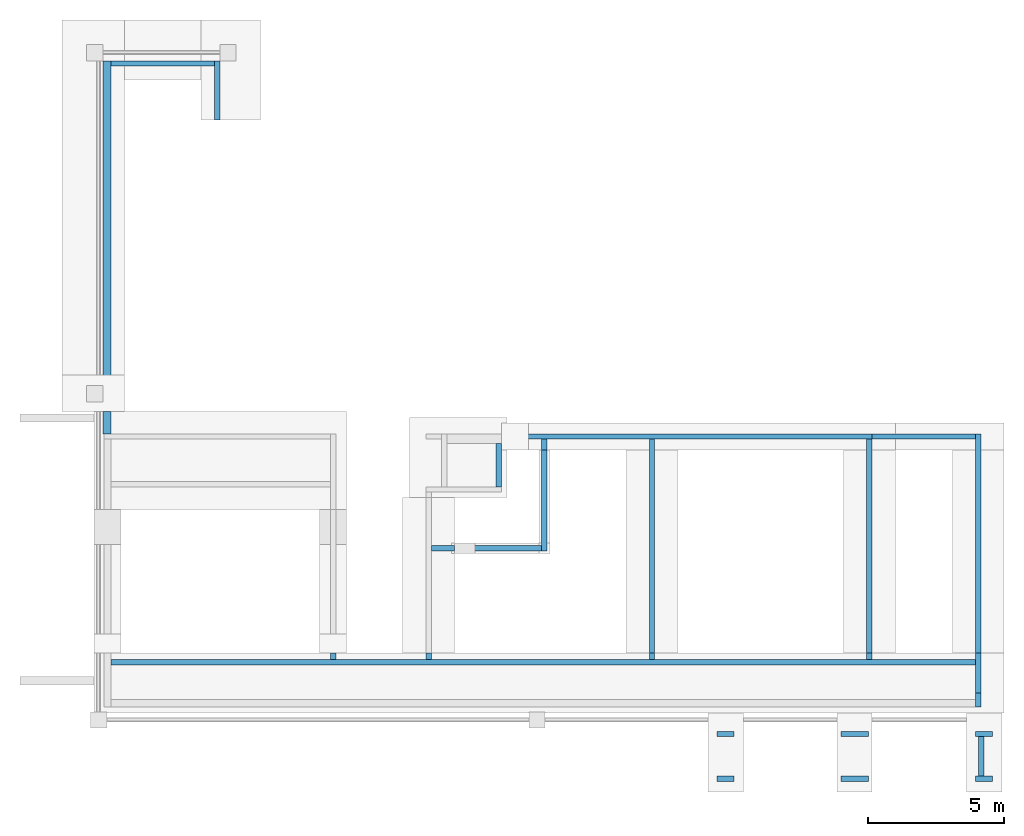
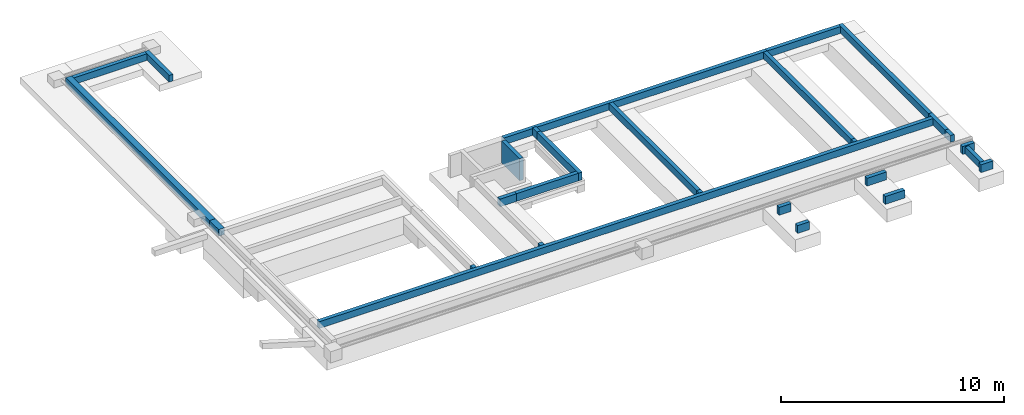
# One storey, part 2 of 4: 28 walls.
"""IFC2X3 building model written with IfcOpenShell, lengths in metres."""

import ifcopenshell
import ifcopenshell.guid

model = None  # the IFC model being written
_history = None  # IfcOwnerHistory: only IFC2X3 demands one
_inside = {}  # id of a spatial element -> (the spatial element, [elements in it])
_under = {}  # id of a project, library or spatial element -> (it, [spatial elements below it])
_declared = {}  # id of a project -> (the project, [libraries it declares])
_typed = {}  # id of a type object -> (the type object, [elements of that type])
_made_of = {}  # id of a material, layer set ... -> (it, [elements and type objects made of it])


def new_model(schema):
    """Start an empty IFC model of exactly this schema.

    Asked for "IFC4X3", IfcOpenShell would pick the latest addendum, in which some entities
    have other attributes; the version numbers below select the first issue.
    IFC2X3 requires an IfcOwnerHistory on every rooted entity: one is made here for all.
    """
    global model, _history
    if schema == "IFC4X3":
        model = ifcopenshell.file(schema_version=(4, 3, 0, 0))
    else:
        model = ifcopenshell.file(schema=schema)
    _inside.clear()
    _under.clear()
    _declared.clear()
    _typed.clear()
    _made_of.clear()
    _history = None
    if model.schema == "IFC2X3":
        org = make("IfcOrganization", Name="unknown")
        user = make(
            "IfcPersonAndOrganization",
            ThePerson=make("IfcPerson", FamilyName="unknown"),
            TheOrganization=org,
        )
        app = make(
            "IfcApplication",
            ApplicationDeveloper=org,
            Version="unknown",
            ApplicationFullName="unknown",
            ApplicationIdentifier="unknown",
        )
        _history = make(
            "IfcOwnerHistory",
            OwningUser=user,
            OwningApplication=app,
            ChangeAction="ADDED",
            CreationDate=0,
        )
    return model


def make(cls, **values):
    """One entity of the class cls with the attributes given. An attribute that is None is left unset."""
    return model.create_entity(
        cls, **{name: value for name, value in values.items() if value is not None}
    )


def entity(cls, *values):
    """Any entity or typed value of the class cls, its attributes in the order of the schema. None: left unset."""
    e = model.create_entity(cls)
    for i, value in enumerate(values):
        if value is not None:
            e[i] = value
    return e


def rooted(cls, **values):
    """An entity with a GlobalId (a new one), such as an element, a storey or a relation."""
    return make(cls, GlobalId=ifcopenshell.guid.new(), OwnerHistory=_history, **values)


def si_unit(unit_type, name, prefix=None):
    """IfcSIUnit, for example si_unit("LENGTHUNIT", "METRE", prefix="MILLI")."""
    return make("IfcSIUnit", UnitType=unit_type, Prefix=prefix, Name=name)


def converted_unit(unit_type, name, factor, base, dimensions=None, offset=None):
    """IfcConversionBasedUnit, such as the inch: factor (a typed value) times the base unit."""
    return make(
        "IfcConversionBasedUnit"
        if offset is None
        else "IfcConversionBasedUnitWithOffset",
        ConversionOffset=offset,
        Dimensions=None
        if dimensions is None
        else entity("IfcDimensionalExponents", *dimensions),
        UnitType=unit_type,
        Name=name,
        ConversionFactor=make(
            "IfcMeasureWithUnit", ValueComponent=factor, UnitComponent=base
        ),
    )


def derived_unit(unit_type, elements):
    """IfcDerivedUnit: a product of units, each with its exponent."""
    return make(
        "IfcDerivedUnit",
        Elements=[
            make("IfcDerivedUnitElement", Unit=unit, Exponent=power)
            for unit, power in elements
        ],
        UnitType=unit_type,
    )


def assignment(units):
    """IfcUnitAssignment: the units of a project."""
    return None if units is None else make("IfcUnitAssignment", Units=units)


def point(xyz):
    """IfcCartesianPoint."""
    return None if xyz is None else make("IfcCartesianPoint", Coordinates=xyz)


def direction(xyz):
    """IfcDirection."""
    return None if xyz is None else make("IfcDirection", DirectionRatios=xyz)


def frame(location, z_axis=None, x_axis=None):
    """IfcAxis2Placement3D, a coordinate frame: its origin and axes. An axis left out is left unset."""
    return make(
        "IfcAxis2Placement3D",
        Location=point(location),
        Axis=direction(z_axis),
        RefDirection=direction(x_axis),
    )


def frame_2d(location, x_axis=None):
    """IfcAxis2Placement2D, a coordinate frame in the plane: its origin and x axis."""
    return make(
        "IfcAxis2Placement2D", Location=point(location), RefDirection=direction(x_axis)
    )


def origin():
    """The frame at (0, 0, 0) with its axes left unset."""
    return frame((0.0, 0.0, 0.0))


def place(relative_to, where):
    """IfcLocalPlacement: puts the frame where relative to a parent placement (None: the world)."""
    return make(
        "IfcLocalPlacement", PlacementRelTo=relative_to, RelativePlacement=where
    )


def context(
    kind, dimensions, precision=None, world=None, true_north=None, identifier=None
):
    """IfcGeometricRepresentationContext, for example the 3D "Model" context."""
    return make(
        "IfcGeometricRepresentationContext",
        ContextIdentifier=identifier,
        ContextType=kind,
        CoordinateSpaceDimension=dimensions,
        Precision=precision,
        WorldCoordinateSystem=world,
        TrueNorth=true_north,
    )


def subcontext(parent, identifier, kind, view, scale=None):
    """IfcGeometricRepresentationSubContext, for example "Body" below "Model"."""
    return make(
        "IfcGeometricRepresentationSubContext",
        ContextIdentifier=identifier,
        ContextType=kind,
        ParentContext=parent,
        TargetScale=scale,
        TargetView=view,
    )


def project(units=None, contexts=None):
    """IfcProject with its units and contexts."""
    return rooted(
        "IfcProject",
        Name="project",
        RepresentationContexts=contexts,
        UnitsInContext=assignment(units),
    )


def spatial(cls, under=None, at=None, **own):
    """A site, building, storey or space (cls), placed at a placement, below another one or the project."""
    s = rooted(cls, ObjectPlacement=at, **own)
    if under is not None:
        _under.setdefault(under.id(), (under, []))[1].append(s)
    return s


def profile(cls, at=None, kind="AREA", **sizes):
    """A parametric profile (cls). Its sizes go by their IFC names, for example OverallWidth=200.0."""
    return make(cls, ProfileType=kind, Position=at, **sizes)


def rectangle(**sizes):
    """IfcRectangleProfileDef."""
    return profile("IfcRectangleProfileDef", **sizes)


def extrude(swept, where, along, depth):
    """IfcExtrudedAreaSolid: the profile swept, set in the frame where, extruded along a direction by depth."""
    return make(
        "IfcExtrudedAreaSolid",
        SweptArea=swept,
        Position=where,
        ExtrudedDirection=direction(along),
        Depth=depth,
    )


def shape(context_of_items, identifier, shape_type, items):
    """IfcShapeRepresentation: the items that make up one representation, for example the "Body"."""
    return make(
        "IfcShapeRepresentation",
        ContextOfItems=context_of_items,
        RepresentationIdentifier=identifier,
        RepresentationType=shape_type,
        Items=items,
    )


def material(Name=None, Category=None):
    """IfcMaterial."""
    return make("IfcMaterial", Name=Name, Category=Category)


def layer(
    of_material, thickness, ventilated=None, Name=None, Category=None, Priority=None
):
    """IfcMaterialLayer: one layer of a wall or slab, of a material (None: an air gap)."""
    return make(
        "IfcMaterialLayer",
        Material=of_material,
        LayerThickness=thickness,
        IsVentilated=ventilated,
        Name=Name,
        Category=Category,
        Priority=Priority,
    )


def layer_set(layers, Name=None):
    """IfcMaterialLayerSet."""
    return make("IfcMaterialLayerSet", MaterialLayers=layers, LayerSetName=Name)


def layer_usage(for_layer_set, set_direction, sense, offset, extent=None):
    """IfcMaterialLayerSetUsage: how a layer set lies in its element."""
    return make(
        "IfcMaterialLayerSetUsage",
        ForLayerSet=for_layer_set,
        LayerSetDirection=set_direction,
        DirectionSense=sense,
        OffsetFromReferenceLine=offset,
        ReferenceExtent=extent,
    )


def made_of(thing, what):
    """Note that an element or type object is made of a material, layer set ...; save() writes the relation."""
    if what is not None:
        _made_of.setdefault(what.id(), (what, []))[1].append(thing)
    return thing


def type_object(cls, material=None, **own):
    """A type object (cls), such as IfcWallType, which elements share."""
    return made_of(rooted(cls, **own), material)


def element(
    cls,
    number,
    at=None,
    inside=None,
    cuts=None,
    type_object=None,
    material=None,
    context=None,
    identifier="Body",
    shape_type=None,
    held_by="IfcProductDefinitionShape",
    body=None,
    shapes=None,
    **own,
):
    """One element of the class cls, such as IfcWall. Its Tag is "e" and its number.

    at: its placement. inside: the storey or other place that contains it. cuts: it is an
    opening in that element (IfcRelVoidsElement). A single representation is given by context,
    identifier, shape_type and body (its items); several are given by shapes. held_by: the class
    of the entity that holds the representations. save() writes the other relations.
    """
    e = rooted(cls, Tag="e%d" % number, ObjectPlacement=at, **own)
    if body is not None:
        shapes = [shape(context, identifier, shape_type, body)]
    if shapes is not None:
        e.Representation = make(held_by, Representations=shapes)
    if inside is not None:
        _inside.setdefault(inside.id(), (inside, []))[1].append(e)
    if cuts is not None:
        rooted(
            "IfcRelVoidsElement", RelatingBuildingElement=cuts, RelatedOpeningElement=e
        )
    if type_object is not None:
        _typed.setdefault(type_object.id(), (type_object, []))[1].append(e)
    return made_of(e, material)


def aggregate(whole, parts):
    """IfcRelAggregates: a whole, such as a stair, and the parts it consists of."""
    return rooted("IfcRelAggregates", RelatingObject=whole, RelatedObjects=parts)


def save(model, path):
    """Write the relations noted so far, then the file.

    IfcRelAggregates (storeys below a building ...), IfcRelContainedInSpatialStructure (elements
    in a storey), IfcRelDefinesByType, IfcRelAssociatesMaterial and IfcRelDeclares: one each for
    every whole, place, type object, material and project.
    """
    for whole, parts in _under.values():
        aggregate(whole, parts)
    for where, things in _inside.values():
        rooted(
            "IfcRelContainedInSpatialStructure",
            RelatedElements=things,
            RelatingStructure=where,
        )
    for kind, things in _typed.values():
        rooted("IfcRelDefinesByType", RelatedObjects=things, RelatingType=kind)
    for what, things in _made_of.values():
        rooted("IfcRelAssociatesMaterial", RelatedObjects=things, RelatingMaterial=what)
    for by, libraries in _declared.values():
        rooted("IfcRelDeclares", RelatingContext=by, RelatedDefinitions=libraries)
    model.write(path)


model = new_model("IFC2X3")

# Units and contexts
model_context = context("Model", 3, precision=1e-05, world=origin(), true_north=direction((6.12303176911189e-17, 1.0)))
body_context = subcontext(model_context, "Body", "Model", "MODEL_VIEW")
ifc_project = project(units=[si_unit("LENGTHUNIT", "METRE"), si_unit("AREAUNIT", "SQUARE_METRE"), si_unit("VOLUMEUNIT", "CUBIC_METRE"), converted_unit("PLANEANGLEUNIT", "DEGREE", entity("IfcRatioMeasure", 0.0174532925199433), si_unit("PLANEANGLEUNIT", "RADIAN"), dimensions=[0, 0, 0, 0, 0, 0, 0]), si_unit("MASSUNIT", "GRAM", prefix="KILO"), derived_unit("MASSDENSITYUNIT", [(si_unit("MASSUNIT", "GRAM", prefix="KILO"), 1), (si_unit("LENGTHUNIT", "METRE"), -3)]), si_unit("TIMEUNIT", "SECOND"), si_unit("FREQUENCYUNIT", "HERTZ"), si_unit("THERMODYNAMICTEMPERATUREUNIT", "DEGREE_CELSIUS"), derived_unit("THERMALTRANSMITTANCEUNIT", [(si_unit("MASSUNIT", "GRAM", prefix="KILO"), 1), (si_unit("THERMODYNAMICTEMPERATUREUNIT", "KELVIN"), -1), (si_unit("TIMEUNIT", "SECOND"), -3)]), derived_unit("VOLUMETRICFLOWRATEUNIT", [(si_unit("LENGTHUNIT", "METRE"), 3), (si_unit("TIMEUNIT", "SECOND"), -1)]), si_unit("ELECTRICCURRENTUNIT", "AMPERE"), si_unit("ELECTRICVOLTAGEUNIT", "VOLT"), si_unit("POWERUNIT", "WATT"), si_unit("FORCEUNIT", "NEWTON"), si_unit("ILLUMINANCEUNIT", "LUX"), si_unit("LUMINOUSFLUXUNIT", "LUMEN"), si_unit("LUMINOUSINTENSITYUNIT", "CANDELA"), derived_unit("USERDEFINED", [(si_unit("MASSUNIT", "GRAM", prefix="KILO"), -1), (si_unit("LENGTHUNIT", "METRE"), -2), (si_unit("TIMEUNIT", "SECOND"), 3), (si_unit("LUMINOUSFLUXUNIT", "LUMEN"), 1)]), derived_unit("LINEARVELOCITYUNIT", [(si_unit("LENGTHUNIT", "METRE"), 1), (si_unit("TIMEUNIT", "SECOND"), -1)]), si_unit("PRESSUREUNIT", "PASCAL"), derived_unit("USERDEFINED", [(si_unit("LENGTHUNIT", "METRE"), -2), (si_unit("MASSUNIT", "GRAM", prefix="KILO"), 1), (si_unit("TIMEUNIT", "SECOND"), -2)])], contexts=[model_context])

# Site, building, storey
site_placement = place(None, origin())
site = spatial("IfcSite", under=ifc_project, at=site_placement, Name="Default", CompositionType="ELEMENT")
building_placement = place(site_placement, origin())
building = spatial("IfcBuilding", under=site, at=building_placement, CompositionType="ELEMENT")
storey_placement = place(building_placement, frame((0.0, 0.0, -5.05)))
storey = spatial("IfcBuildingStorey", under=building, at=storey_placement, Name="S02", CompositionType="ELEMENT", Elevation=-5.05)

# Walls
ifc_material = material(Name="Mur par défaut")
ifc_layer_1 = layer(ifc_material, 0.2)
ifc_layer_set_1 = layer_set([ifc_layer_1], Name="Basic Wall:Mur BA - 20cm")
ifc_layer_usage_1 = layer_usage(ifc_layer_set_1, "AXIS2", "NEGATIVE", 0.1)
wall_type_1 = type_object("IfcWallType", Name="Basic Wall:Mur BA - 20cm", PredefinedType="STANDARD", material=ifc_layer_set_1)
wall_1_placement = place(storey_placement, frame((47.8497436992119, -186.906488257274, -0.84), z_axis=(0.0, 0.0, 1.0), x_axis=(0.0, 1.0, 0.0)))
element("IfcWallStandardCase", 1, at=wall_1_placement, inside=storey, type_object=wall_type_1, material=ifc_layer_usage_1, Name="Basic Wall:Mur BA - 20cm", ObjectType="Basic Wall:Mur BA - 20cm", context=body_context, shape_type="SweptSolid", body=[
    extrude(rectangle(XDim=1.59999999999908, YDim=0.200000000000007, at=frame_2d((0.799999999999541, 0.0), x_axis=(-1.0, 0.0))), origin(), (0.0, 0.0, 1.0), 1.21),
])
ifc_layer_usage_2 = layer_usage(ifc_layer_set_1, "AXIS2", "NEGATIVE", 0.1)
wall_2_placement = place(storey_placement, frame((65.3897436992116, -185.056488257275, 0.0), z_axis=(0.0, 0.0, 1.0), x_axis=(-1.0, 0.0, 0.0)))
element("IfcWallStandardCase", 2, at=wall_2_placement, inside=storey, type_object=wall_type_1, material=ifc_layer_usage_2, Name="Basic Wall:Mur BA - 20cm", ObjectType="Basic Wall:Mur BA - 20cm", context=body_context, shape_type="SweptSolid", body=[
    extrude(rectangle(XDim=3.79999999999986, YDim=0.200000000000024, at=frame_2d((1.89999999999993, 6.57113252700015e-15), x_axis=(-1.0, 0.0))), origin(), (0.0, 0.0, 1.0), 0.37),
])
ifc_layer_usage_3 = layer_usage(ifc_layer_set_1, "AXIS2", "NEGATIVE", 0.1)
wall_3_placement = place(storey_placement, frame((41.7597436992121, -193.259651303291, 0.0), z_axis=(0.0, 0.0, 1.0), x_axis=(0.0, 1.0, 0.0)))
element("IfcWallStandardCase", 3, at=wall_3_placement, inside=storey, type_object=wall_type_1, material=ifc_layer_usage_3, Name="Basic Wall:Mur BA - 20cm", ObjectType="Basic Wall:Mur BA - 20cm", context=body_context, shape_type="SweptSolid", body=[
    extrude(rectangle(XDim=0.230000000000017, YDim=0.200000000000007, at=frame_2d((0.115000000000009, 2.4980018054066e-16), x_axis=(-1.0, 0.0))), origin(), (0.0, 0.0, 1.0), 0.37),
])
ifc_layer_usage_4 = layer_usage(ifc_layer_set_1, "AXIS2", "NEGATIVE", 0.1)
wall_4_placement = place(storey_placement, frame((61.4897436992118, -193.259651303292, 0.0), z_axis=(0.0, 0.0, 1.0), x_axis=(0.0, 1.0, 0.0)))
element("IfcWallStandardCase", 4, at=wall_4_placement, inside=storey, type_object=wall_type_1, material=ifc_layer_usage_4, Name="Basic Wall:Mur BA - 20cm", ObjectType="Basic Wall:Mur BA - 20cm", context=body_context, shape_type="SweptSolid", body=[
    extrude(rectangle(XDim=0.230000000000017, YDim=0.200000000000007, at=frame_2d((0.115000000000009, 2.4980018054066e-16), x_axis=(-1.0, 0.0))), origin(), (0.0, 0.0, 1.0), 0.37),
])
ifc_layer_usage_5 = layer_usage(ifc_layer_set_1, "AXIS2", "NEGATIVE", 0.1)
wall_5_placement = place(storey_placement, frame((53.4897436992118, -193.259651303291, 0.0), z_axis=(0.0, 0.0, 1.0), x_axis=(0.0, 1.0, 0.0)))
element("IfcWallStandardCase", 5, at=wall_5_placement, inside=storey, type_object=wall_type_1, material=ifc_layer_usage_5, Name="Basic Wall:Mur BA - 20cm", ObjectType="Basic Wall:Mur BA - 20cm", context=body_context, shape_type="SweptSolid", body=[
    extrude(rectangle(XDim=0.230000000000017, YDim=0.200000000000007, at=frame_2d((0.115000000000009, 2.4980018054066e-16), x_axis=(-1.0, 0.0))), origin(), (0.0, 0.0, 1.0), 0.37),
])
ifc_layer_usage_6 = layer_usage(ifc_layer_set_1, "AXIS2", "NEGATIVE", 0.1)
wall_6_placement = place(storey_placement, frame((65.3897436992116, -193.359651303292, 0.0), z_axis=(0.0, 0.0, 1.0), x_axis=(-1.0, 0.0, 0.0)))
element("IfcWallStandardCase", 6, at=wall_6_placement, inside=storey, type_object=wall_type_1, material=ifc_layer_usage_6, Name="Basic Wall:Mur BA - 20cm", ObjectType="Basic Wall:Mur BA - 20cm", context=body_context, shape_type="SweptSolid", body=[
    extrude(rectangle(XDim=31.7999999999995, YDim=0.200000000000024, at=frame_2d((15.8999999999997, 0.0), x_axis=(-1.0, 0.0))), origin(), (0.0, 0.0, 1.0), 0.37),
])
ifc_layer_usage_7 = layer_usage(ifc_layer_set_1, "AXIS2", "NEGATIVE", 0.1)
wall_7_placement = place(storey_placement, frame((61.5897436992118, -185.056488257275, 0.0), z_axis=(0.0, 0.0, 1.0), x_axis=(-1.0, 0.0, 0.0)))
element("IfcWallStandardCase", 7, at=wall_7_placement, inside=storey, type_object=wall_type_1, material=ifc_layer_usage_7, Name="Basic Wall:Mur BA - 20cm", ObjectType="Basic Wall:Mur BA - 20cm", context=body_context, shape_type="SweptSolid", body=[
    extrude(rectangle(XDim=13.6399999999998, YDim=0.200000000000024, at=frame_2d((6.81999999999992, -1.10952913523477e-14), x_axis=(-1.0, 0.0))), origin(), (0.0, 0.0, 1.0), 0.37),
])
ifc_layer_usage_8 = layer_usage(ifc_layer_set_1, "AXIS2", "POSITIVE", -0.1)
wall_8_placement = place(storey_placement, frame((49.5297436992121, -185.156488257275, 0.0), z_axis=(0.0, 0.0, 1.0), x_axis=(0.0, -1.0, 0.0)))
element("IfcWallStandardCase", 8, at=wall_8_placement, inside=storey, type_object=wall_type_1, material=ifc_layer_usage_8, Name="Basic Wall:Mur BA - 20cm", ObjectType="Basic Wall:Mur BA - 20cm", context=body_context, shape_type="SweptSolid", body=[
    extrude(rectangle(XDim=0.400000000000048, YDim=0.200000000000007, at=frame_2d((0.200000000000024, 4.44089209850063e-16), x_axis=(-1.0, 0.0))), origin(), (0.0, 0.0, 1.0), 0.42),
])
ifc_layer_usage_9 = layer_usage(ifc_layer_set_1, "AXIS2", "POSITIVE", -0.1)
wall_9_placement = place(storey_placement, frame((49.4297436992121, -189.168069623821, 0.0), z_axis=(0.0, 0.0, 1.0), x_axis=(-1.0, 0.0, 0.0)))
element("IfcWallStandardCase", 9, at=wall_9_placement, inside=storey, type_object=wall_type_1, material=ifc_layer_usage_9, Name="Basic Wall:Mur BA - 20cm", ObjectType="Basic Wall:Mur BA - 20cm", context=body_context, shape_type="SweptSolid", body=[
    extrude(rectangle(XDim=3.2100000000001, YDim=0.200000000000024, at=frame_2d((1.60500000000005, 0.0), x_axis=(-1.0, 0.0))), origin(), (0.0, 0.0, 1.0), 0.42),
])
ifc_layer_usage_10 = layer_usage(ifc_layer_set_1, "AXIS2", "NEGATIVE", 0.1)
wall_10_placement = place(storey_placement, frame((66.0097436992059, -196.001320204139, 0.0), z_axis=(0.0, 0.0, 1.0), x_axis=(-1.0, 0.0, 0.0)))
element("IfcWallStandardCase", 10, at=wall_10_placement, inside=storey, type_object=wall_type_1, material=ifc_layer_usage_10, Name="Basic Wall:Mur BA - 20cm", ObjectType="Basic Wall:Mur BA - 20cm", context=body_context, shape_type="SweptSolid", body=[
    extrude(rectangle(XDim=0.619999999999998, YDim=0.200000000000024, at=frame_2d((0.309999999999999, 1.08940634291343e-15), x_axis=(-1.0, 0.0))), origin(), (0.0, 0.0, 1.0), 0.43),
])
ifc_layer_usage_11 = layer_usage(ifc_layer_set_1, "AXIS2", "NEGATIVE", 0.1)
wall_11_placement = place(storey_placement, frame((56.5099742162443, -197.646420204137, 0.0), z_axis=(0.0, 0.0, 1.0), x_axis=(-1.0, 0.0, 0.0)))
element("IfcWallStandardCase", 11, at=wall_11_placement, inside=storey, type_object=wall_type_1, material=ifc_layer_usage_11, Name="Basic Wall:Mur BA - 20cm", ObjectType="Basic Wall:Mur BA - 20cm", context=body_context, shape_type="SweptSolid", body=[
    extrude(rectangle(XDim=0.621176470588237, YDim=0.200000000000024, at=frame_2d((0.310588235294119, 1.08940634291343e-15), x_axis=(-1.0, 0.0))), origin(), (0.0, 0.0, 1.0), 0.43),
])
ifc_layer_usage_12 = layer_usage(ifc_layer_set_1, "AXIS2", "NEGATIVE", 0.1)
wall_12_placement = place(storey_placement, frame((65.4897436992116, -194.501320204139, 0.0), z_axis=(0.0, 0.0, 1.0), x_axis=(0.0, 1.0, 0.0)))
element("IfcWallStandardCase", 12, at=wall_12_placement, inside=storey, type_object=wall_type_1, material=ifc_layer_usage_12, Name="Basic Wall:Mur BA - 20cm", ObjectType="Basic Wall:Mur BA - 20cm", context=body_context, shape_type="SweptSolid", body=[
    extrude(rectangle(XDim=1.47166890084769, YDim=0.200000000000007, at=frame_2d((0.735834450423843, 1.31145094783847e-15), x_axis=(-1.0, 0.0))), origin(), (0.0, 0.0, 1.0), 0.37),
])
ifc_layer_usage_13 = layer_usage(ifc_layer_set_1, "AXIS2", "NEGATIVE", 0.1)
wall_13_placement = place(storey_placement, frame((65.4897436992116, -195.001320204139, 0.0), z_axis=(0.0, 0.0, 1.0), x_axis=(0.0, 1.0, 0.0)))
element("IfcWallStandardCase", 13, at=wall_13_placement, inside=storey, type_object=wall_type_1, material=ifc_layer_usage_13, Name="Basic Wall:Mur BA - 20cm", ObjectType="Basic Wall:Mur BA - 20cm", context=body_context, shape_type="SweptSolid", body=[
    extrude(rectangle(XDim=0.50000000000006, YDim=0.200000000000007, at=frame_2d((0.25000000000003, 4.5102810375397e-16), x_axis=(-1.0, 0.0))), origin(), (0.0, 0.0, 1.0), 0.37),
])
ifc_layer_usage_14 = layer_usage(ifc_layer_set_1, "AXIS2", "NEGATIVE", 0.1)
wall_14_placement = place(storey_placement, frame((45.2697436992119, -193.029651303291, 0.0), z_axis=(0.0, 0.0, 1.0), x_axis=(0.0, -1.0, 0.0)))
element("IfcWallStandardCase", 14, at=wall_14_placement, inside=storey, type_object=wall_type_1, material=ifc_layer_usage_14, Name="Basic Wall:Mur BA - 20cm", ObjectType="Basic Wall:Mur BA - 20cm", context=body_context, shape_type="SweptSolid", body=[
    extrude(rectangle(XDim=0.230000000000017, YDim=0.200000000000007, at=frame_2d((0.115000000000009, 2.4980018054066e-16), x_axis=(-1.0, 0.0))), origin(), (0.0, 0.0, 1.0), 0.37),
])
ifc_layer_usage_15 = layer_usage(ifc_layer_set_1, "AXIS2", "NEGATIVE", 0.1)
wall_15_placement = place(storey_placement, frame((56.5099742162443, -196.001320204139, 0.0), z_axis=(0.0, 0.0, 1.0), x_axis=(-1.0, 0.0, 0.0)))
element("IfcWallStandardCase", 15, at=wall_15_placement, inside=storey, type_object=wall_type_1, material=ifc_layer_usage_15, Name="Basic Wall:Mur BA - 20cm", ObjectType="Basic Wall:Mur BA - 20cm", context=body_context, shape_type="SweptSolid", body=[
    extrude(rectangle(XDim=0.621176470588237, YDim=0.200000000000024, at=frame_2d((0.310588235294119, 1.08940634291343e-15), x_axis=(-1.0, 0.0))), origin(), (0.0, 0.0, 1.0), 0.43),
])
ifc_layer_usage_16 = layer_usage(ifc_layer_set_1, "AXIS2", "NEGATIVE", 0.1)
wall_16_placement = place(storey_placement, frame((61.4499742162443, -196.001320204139, 0.0), z_axis=(0.0, 0.0, 1.0), x_axis=(-1.0, 0.0, 0.0)))
element("IfcWallStandardCase", 16, at=wall_16_placement, inside=storey, type_object=wall_type_1, material=ifc_layer_usage_16, Name="Basic Wall:Mur BA - 20cm", ObjectType="Basic Wall:Mur BA - 20cm", context=body_context, shape_type="SweptSolid", body=[
    extrude(rectangle(XDim=1.01523021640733, YDim=0.200000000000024, at=frame_2d((0.507615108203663, 0.0), x_axis=(-1.0, 0.0))), origin(), (0.0, 0.0, 1.0), 0.43),
])
ifc_layer_usage_17 = layer_usage(ifc_layer_set_1, "AXIS2", "NEGATIVE", 0.1)
wall_17_placement = place(storey_placement, frame((66.0097436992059, -197.646420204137, 0.0), z_axis=(0.0, 0.0, 1.0), x_axis=(-1.0, 0.0, 0.0)))
element("IfcWallStandardCase", 17, at=wall_17_placement, inside=storey, type_object=wall_type_1, material=ifc_layer_usage_17, Name="Basic Wall:Mur BA - 20cm", ObjectType="Basic Wall:Mur BA - 20cm", context=body_context, shape_type="SweptSolid", body=[
    extrude(rectangle(XDim=0.619999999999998, YDim=0.200000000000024, at=frame_2d((0.309999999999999, 1.08940634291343e-15), x_axis=(-1.0, 0.0))), origin(), (0.0, 0.0, 1.0), 0.43),
])
ifc_layer_usage_18 = layer_usage(ifc_layer_set_1, "AXIS2", "NEGATIVE", 0.1)
wall_18_placement = place(storey_placement, frame((61.4499742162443, -197.646420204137, 0.0), z_axis=(0.0, 0.0, 1.0), x_axis=(-1.0, 0.0, 0.0)))
element("IfcWallStandardCase", 18, at=wall_18_placement, inside=storey, type_object=wall_type_1, material=ifc_layer_usage_18, Name="Basic Wall:Mur BA - 20cm", ObjectType="Basic Wall:Mur BA - 20cm", context=body_context, shape_type="SweptSolid", body=[
    extrude(rectangle(XDim=1.01523021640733, YDim=0.200000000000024, at=frame_2d((0.507615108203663, 0.0), x_axis=(-1.0, 0.0))), origin(), (0.0, 0.0, 1.0), 0.43),
])
ifc_layer_usage_19 = layer_usage(ifc_layer_set_1, "AXIS2", "NEGATIVE", 0.1)
wall_19_placement = place(storey_placement, frame((65.4897436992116, -193.029651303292, 0.0), z_axis=(0.0, 0.0, 1.0), x_axis=(0.0, 1.0, 0.0)))
element("IfcWallStandardCase", 19, at=wall_19_placement, inside=storey, type_object=wall_type_1, material=ifc_layer_usage_19, Name="Basic Wall:Mur BA - 20cm", ObjectType="Basic Wall:Mur BA - 20cm", context=body_context, shape_type="SweptSolid", body=[
    extrude(rectangle(XDim=8.07316304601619, YDim=0.200000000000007, at=frame_2d((4.0365815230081, -1.48492329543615e-15), x_axis=(-1.0, 0.0))), origin(), (0.0, 0.0, 1.0), 0.37),
])
ifc_layer_usage_20 = layer_usage(ifc_layer_set_1, "AXIS2", "NEGATIVE", 0.1)
wall_20_placement = place(storey_placement, frame((61.4897436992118, -193.029651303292, 0.0), z_axis=(0.0, 0.0, 1.0), x_axis=(0.0, 1.0, 0.0)))
element("IfcWallStandardCase", 20, at=wall_20_placement, inside=storey, type_object=wall_type_1, material=ifc_layer_usage_20, Name="Basic Wall:Mur BA - 20cm", ObjectType="Basic Wall:Mur BA - 20cm", context=body_context, shape_type="SweptSolid", body=[
    extrude(rectangle(XDim=7.8731630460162, YDim=0.200000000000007, at=frame_2d((3.9365815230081, -2.42861286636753e-16), x_axis=(-1.0, 0.0))), origin(), (0.0, 0.0, 1.0), 0.37),
])
ifc_layer_usage_21 = layer_usage(ifc_layer_set_1, "AXIS2", "NEGATIVE", 0.1)
wall_21_placement = place(storey_placement, frame((53.4897436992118, -193.029651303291, 0.0), z_axis=(0.0, 0.0, 1.0), x_axis=(0.0, 1.0, 0.0)))
element("IfcWallStandardCase", 21, at=wall_21_placement, inside=storey, type_object=wall_type_1, material=ifc_layer_usage_21, Name="Basic Wall:Mur BA - 20cm", ObjectType="Basic Wall:Mur BA - 20cm", context=body_context, shape_type="SweptSolid", body=[
    extrude(rectangle(XDim=7.8731630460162, YDim=0.200000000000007, at=frame_2d((3.9365815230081, -2.42861286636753e-16), x_axis=(-1.0, 0.0))), origin(), (0.0, 0.0, 1.0), 0.37),
])
ifc_layer_usage_22 = layer_usage(ifc_layer_set_1, "AXIS2", "POSITIVE", -0.1)
wall_22_placement = place(storey_placement, frame((49.5297436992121, -185.556488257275, 0.0), z_axis=(0.0, 0.0, 1.0), x_axis=(0.0, -1.0, 0.0)))
element("IfcWallStandardCase", 22, at=wall_22_placement, inside=storey, type_object=wall_type_1, material=ifc_layer_usage_22, Name="Basic Wall:Mur BA - 20cm", ObjectType="Basic Wall:Mur BA - 20cm", context=body_context, shape_type="SweptSolid", body=[
    extrude(rectangle(XDim=3.71158136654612, YDim=0.200000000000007, at=frame_2d((1.85579068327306, -2.42861286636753e-16), x_axis=(-1.0, 0.0))), origin(), (0.0, 0.0, 1.0), 0.42),
])
ifc_layer_usage_23 = layer_usage(ifc_layer_set_1, "AXIS2", "POSITIVE", -0.1)
wall_23_placement = place(storey_placement, frame((46.2197436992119, -189.168069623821, 0.0), z_axis=(0.0, 0.0, 1.0), x_axis=(-1.0, 0.0, 0.0)))
element("IfcWallStandardCase", 23, at=wall_23_placement, inside=storey, type_object=wall_type_1, material=ifc_layer_usage_23, Name="Basic Wall:Mur BA - 20cm", ObjectType="Basic Wall:Mur BA - 20cm", context=body_context, shape_type="SweptSolid", body=[
    extrude(rectangle(XDim=0.849999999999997, YDim=0.200000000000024, at=frame_2d((0.424999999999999, 0.0), x_axis=(-1.0, 0.0))), origin(), (0.0, 0.0, 1.0), 0.42),
])
ifc_layer_usage_24 = layer_usage(ifc_layer_set_1, "AXIS2", "NEGATIVE", 0.1)
wall_24_placement = place(storey_placement, frame((65.6097436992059, -197.546420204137, 0.0), z_axis=(0.0, 0.0, 1.0), x_axis=(0.0, 1.0, 0.0)))
element("IfcWallStandardCase", 24, at=wall_24_placement, inside=storey, type_object=wall_type_1, material=ifc_layer_usage_24, Name="Basic Wall:Mur BA - 20cm", ObjectType="Basic Wall:Mur BA - 20cm", context=body_context, shape_type="SweptSolid", body=[
    extrude(rectangle(XDim=1.44509999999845, YDim=0.200000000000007, at=frame_2d((0.722549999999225, 1.17961196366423e-16), x_axis=(-1.0, 0.0))), origin(), (0.0, 0.0, 1.0), 0.38),
])
ifc_layer_2 = layer(ifc_material, 0.3)
ifc_layer_set_2 = layer_set([ifc_layer_2], Name="Basic Wall:Mur BA Contre terre - 30cm")
ifc_layer_usage_25 = layer_usage(ifc_layer_set_2, "AXIS2", "NEGATIVE", 0.15)
wall_type_2 = type_object("IfcWallType", Name="Basic Wall:Mur BA Contre terre - 30cm", PredefinedType="STANDARD", material=ifc_layer_set_2)
wall_25_placement = place(storey_placement, frame((33.4397436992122, -171.23478277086, 0.0), z_axis=(0.0, 0.0, 1.0), x_axis=(0.0, -1.0, 0.0)))
element("IfcWallStandardCase", 25, at=wall_25_placement, inside=storey, type_object=wall_type_2, material=ifc_layer_usage_25, Name="Basic Wall:Mur BA Contre terre - 30cm", ObjectType="Basic Wall:Mur BA Contre terre - 30cm", context=body_context, shape_type="SweptSolid", body=[
    extrude(rectangle(XDim=12.901705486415, YDim=0.300000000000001, at=frame_2d((6.45085274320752, -6.38378239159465e-16), x_axis=(-1.0, 0.0))), origin(), (0.0, 0.0, 1.0), 0.37),
])
ifc_layer_usage_26 = layer_usage(ifc_layer_set_2, "AXIS2", "NEGATIVE", 0.15)
wall_26_placement = place(storey_placement, frame((33.4397436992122, -184.136488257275, 0.0), z_axis=(0.0, 0.0, 1.0), x_axis=(0.0, -1.0, 0.0)))
element("IfcWallStandardCase", 26, at=wall_26_placement, inside=storey, type_object=wall_type_2, material=ifc_layer_usage_26, Name="Basic Wall:Mur BA Contre terre - 30cm", ObjectType="Basic Wall:Mur BA Contre terre - 30cm", context=body_context, shape_type="SweptSolid", body=[
    extrude(rectangle(XDim=0.820000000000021, YDim=0.300000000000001, at=frame_2d((0.410000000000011, 6.38378239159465e-16), x_axis=(-1.0, 0.0))), origin(), (0.0, 0.0, 1.0), 0.37),
])
ifc_layer_3 = layer(ifc_material, 0.2)
ifc_layer_set_3 = layer_set([ifc_layer_3], Name="Basic Wall:Mur BA Contre terre - 20cm")
ifc_layer_usage_27 = layer_usage(ifc_layer_set_3, "AXIS2", "POSITIVE", -0.1)
wall_type_3 = type_object("IfcWallType", Name="Basic Wall:Mur BA Contre terre - 20cm", PredefinedType="STANDARD", material=ifc_layer_set_3)
wall_27_placement = place(storey_placement, frame((37.4897436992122, -171.23478277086, 0.0), z_axis=(0.0, 0.0, 1.0), x_axis=(0.0, -1.0, 0.0)))
element("IfcWallStandardCase", 27, at=wall_27_placement, inside=storey, type_object=wall_type_3, material=ifc_layer_usage_27, Name="Basic Wall:Mur BA Contre terre - 20cm", ObjectType="Basic Wall:Mur BA Contre terre - 20cm", context=body_context, shape_type="SweptSolid", body=[
    extrude(rectangle(XDim=2.17194719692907, YDim=0.199999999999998, at=frame_2d((1.08597359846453, 1.38777878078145e-16), x_axis=(-1.0, 0.0))), origin(), (0.0, 0.0, 1.0), 0.37),
])
ifc_layer_usage_28 = layer_usage(ifc_layer_set_3, "AXIS2", "POSITIVE", -0.1)
wall_28_placement = place(storey_placement, frame((33.5897436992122, -171.33478277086, 0.0)))
element("IfcWallStandardCase", 28, at=wall_28_placement, inside=storey, type_object=wall_type_3, material=ifc_layer_usage_28, Name="Basic Wall:Mur BA Contre terre - 20cm", ObjectType="Basic Wall:Mur BA Contre terre - 20cm", context=body_context, shape_type="SweptSolid", body=[
    extrude(rectangle(XDim=3.79999999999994, YDim=0.200000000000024, at=frame_2d((1.89999999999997, -3.5527136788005e-15), x_axis=(-1.0, 0.0))), origin(), (0.0, 0.0, 1.0), 0.37),
])

save(model, "model.ifc")
